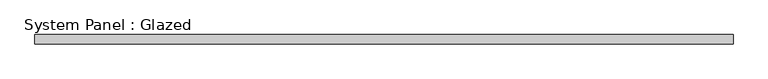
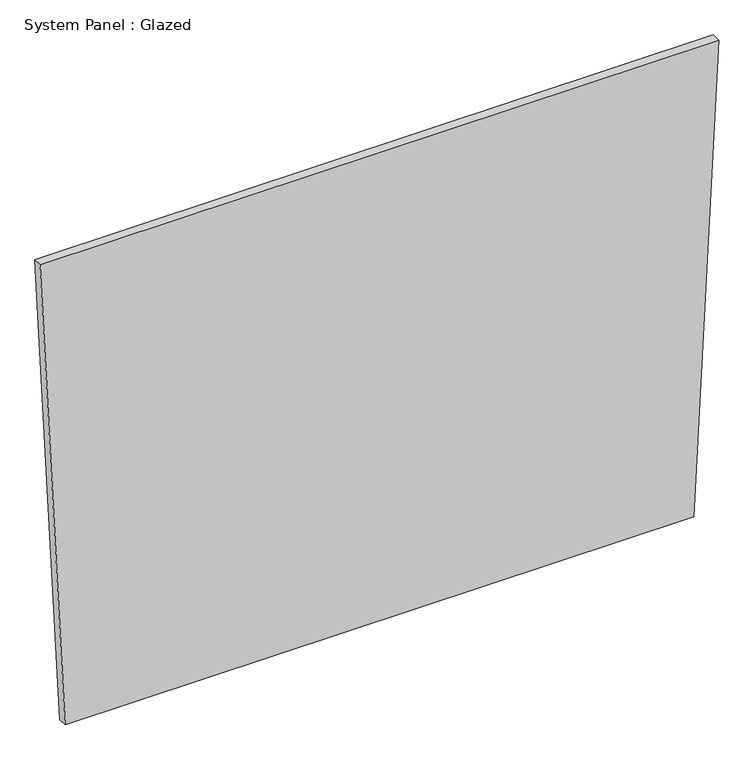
"""IFC4 building model written with IfcOpenShell, lengths in millimetres: plate geometry, System Panel : Glazed."""

from ifc_helpers import new_model, si_unit, frame, origin, place, context, project, spatial, polyline, outline, extrude, source, transform, mapped, element, save


def system_panel_glazed_b045e314(model_context):
    return source(origin(), model_context, "Body", "SweptSolid", [
        extrude(outline(polyline([(0.0, -883.3128104), (0.0, 883.31279), (1391.9982337, 953.735879), (1391.9982337, -953.735879), (0.0, -883.3128104)])), frame((0.0, -49.5, 0.0), z_axis=(0.0, 1.0, 0.0), x_axis=(0.0, 0.0, 1.0)), (0.0, 0.0, 1.0), 25.0),
    ])


if __name__ == "__main__":
    model = new_model("IFC4")
    model_context = context("Model", 3, world=origin())
    ifc_project = project(units=[si_unit("LENGTHUNIT", "METRE", prefix="MILLI")], contexts=[model_context])
    site = spatial("IfcSite", under=ifc_project)
    building = spatial("IfcBuilding", under=site)
    placement = place(None, origin())
    system_panel_glazed_shape = system_panel_glazed_b045e314(model_context)
    element("IfcPlate", 1, ObjectType="System Panel : Glazed", at=placement, inside=building, context=model_context, shape_type="MappedRepresentation", body=[
        mapped(system_panel_glazed_shape, transform((0.0, 0.0, 0.0), x_axis=(1.0, 0.0, 0.0), y_axis=(0.0, 1.0, 0.0), z_axis=(0.0, 0.0, 1.0))),
    ])
    save(model, "model.ifc")
